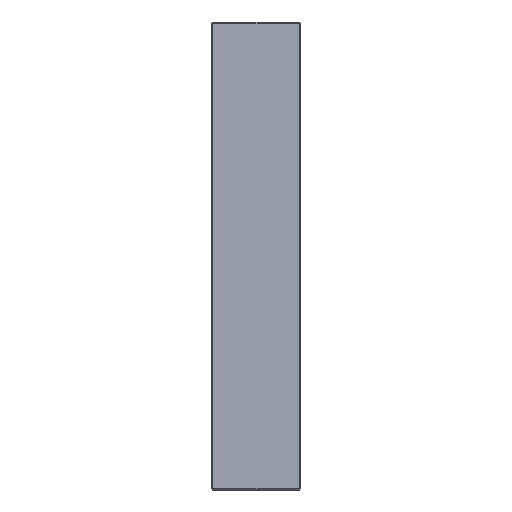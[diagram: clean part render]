
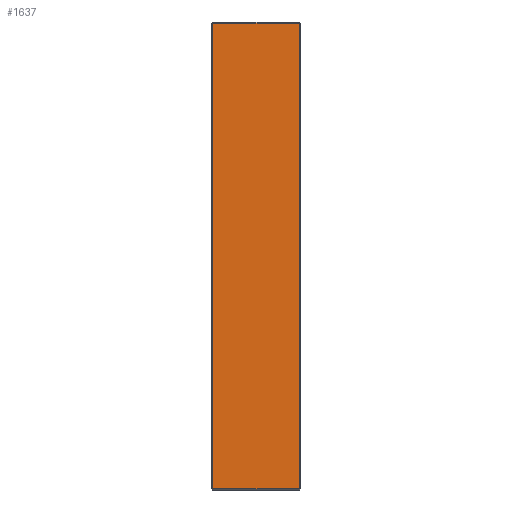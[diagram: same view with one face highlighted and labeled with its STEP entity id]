
A CAD part, left-side view. The second image highlights one B-rep face of the part: STEP entity #1637.
In plain terms, the highlighted planar face has unit normal (-1, 0, 0).
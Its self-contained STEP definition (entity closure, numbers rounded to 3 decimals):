
#14 = PLANE ( 'NONE',  #939 ) ;
#29 = DIRECTION ( 'NONE',  ( 1., 0., 0. ) ) ;
#35 = DIRECTION ( 'NONE',  ( 0., 0., -1. ) ) ;
#43 = EDGE_CURVE ( 'NONE', #1842, #1135, #453, .T. ) ;
#91 = CARTESIAN_POINT ( 'NONE',  ( -173., 65., 172. ) ) ;
#109 = EDGE_LOOP ( 'NONE', ( #598, #177, #866, #745 ) ) ;
#117 = FACE_OUTER_BOUND ( 'NONE', #109, .T. ) ;
#177 = ORIENTED_EDGE ( 'NONE', *, *, #743, .T. ) ;
#231 = CARTESIAN_POINT ( 'NONE',  ( -173., 1., 173. ) ) ;
#374 = DIRECTION ( 'NONE',  ( 0., 0., 1. ) ) ;
#418 = CARTESIAN_POINT ( 'NONE',  ( -173., 66., 172. ) ) ;
#453 = LINE ( 'NONE', #619, #793 ) ;
#474 = CARTESIAN_POINT ( 'NONE',  ( -173., 66., 173. ) ) ;
#541 = DIRECTION ( 'NONE',  ( 0., 0., -1. ) ) ;
#543 = LINE ( 'NONE', #418, #1325 ) ;
#590 = EDGE_CURVE ( 'NONE', #1046, #1500, #543, .T. ) ;
#598 = ORIENTED_EDGE ( 'NONE', *, *, #590, .T. ) ;
#619 = CARTESIAN_POINT ( 'NONE',  ( -173., 66., -172. ) ) ;
#650 = DIRECTION ( 'NONE',  ( 0., -1., 0. ) ) ;
#660 = CARTESIAN_POINT ( 'NONE',  ( -173., 65., 173. ) ) ;
#689 = EDGE_CURVE ( 'NONE', #1135, #1046, #1134, .T. ) ;
#743 = EDGE_CURVE ( 'NONE', #1500, #1842, #1618, .T. ) ;
#745 = ORIENTED_EDGE ( 'NONE', *, *, #689, .T. ) ;
#793 = VECTOR ( 'NONE', #650, 1000. ) ;
#866 = ORIENTED_EDGE ( 'NONE', *, *, #43, .T. ) ;
#939 = AXIS2_PLACEMENT_3D ( 'NONE', #474, #29, #35 ) ;
#963 = CARTESIAN_POINT ( 'NONE',  ( -173., 65., -172. ) ) ;
#1046 = VERTEX_POINT ( 'NONE', #1590 ) ;
#1134 = LINE ( 'NONE', #231, #1669 ) ;
#1135 = VERTEX_POINT ( 'NONE', #1647 ) ;
#1325 = VECTOR ( 'NONE', #1693, 1000. ) ;
#1500 = VERTEX_POINT ( 'NONE', #91 ) ;
#1590 = CARTESIAN_POINT ( 'NONE',  ( -173., 1., 172. ) ) ;
#1597 = VECTOR ( 'NONE', #541, 1000. ) ;
#1618 = LINE ( 'NONE', #660, #1597 ) ;
#1637 = ADVANCED_FACE ( 'NONE', ( #117 ), #14, .F. ) ;
#1647 = CARTESIAN_POINT ( 'NONE',  ( -173., 1., -172. ) ) ;
#1669 = VECTOR ( 'NONE', #374, 1000. ) ;
#1693 = DIRECTION ( 'NONE',  ( 0., 1., 0. ) ) ;
#1842 = VERTEX_POINT ( 'NONE', #963 ) ;
